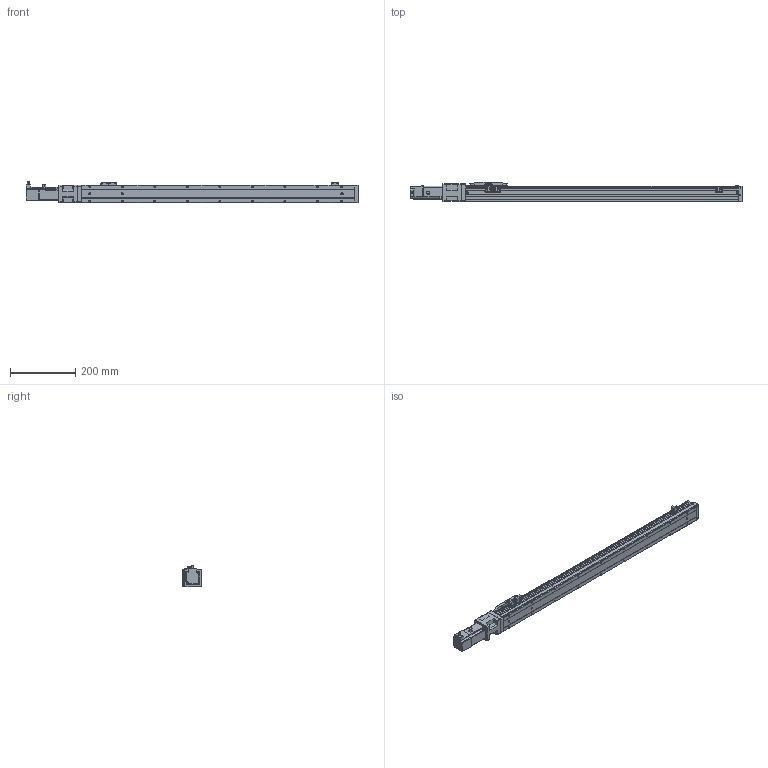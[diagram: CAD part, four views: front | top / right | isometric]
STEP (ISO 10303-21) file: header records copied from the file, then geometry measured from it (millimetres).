
FILE_DESCRIPTION (( 'STEP AP203' ), '1' );
FILE_NAME ('CTH5-L10-S700-BC-C10(¼ò).STEP', '2023-02-04T02:06:49', ( '' ), ( '' ), 'SwSTEP 2.0', 'SolidWorks 2018', '' );
FILE_SCHEMA (( 'CONFIG_CONTROL_DESIGN' ));
Length unit declared in the file: millimetre
Products named in the file (21): 内六角圆柱头螺钉M3-2; CTH5萇儂釱欶; M3; 葩璃 蚾饜极13^CTH8-L10-S50-BM-C40(潠)1; CTH5ヶ耜啣(潠); M3｡｣; CTH5覜茼え; hex nuts, style 1-grades ab gb_GB_FASTENER_NUT_SNAB1 M3-N; 嫖萇羲壽郪磁1; CTH5耜晚蹟隊-1; CTH5-L10-S700-BC-C10(潠); CTH5-BC-03; CTH5綴耜啣; PM-Y45; CTH嫖萇羲壽假蚾啣; CTH5賑怢; CTH5耜晚蹟隊; CTH5萇儂釱; 100W萇儂; CTH5菁釱-L840; T10-p1
Assembly tree (37 placements, depth 3):
  CTH5-L10-S700-BC-C10(潠)
    CTH5綴耜啣
    CTH5賑怢
    CTH5ヶ耜啣(潠)
    CTH5菁釱-L840
    CTH5耜晚蹟隊  x2
    CTH5萇儂釱
      CTH5-BC-03
    CTH5萇儂釱欶
    100W萇儂
      T10-p1
    嫖萇羲壽郪磁1  x2
      CTH嫖萇羲壽假蚾啣
      PM-Y45
      M3｡｣
      内六角圆柱头螺钉M3-2
      hex nuts, style 1-grades ab gb_GB_FASTENER_NUT_SNAB1 M3-N
    CTH5覜茼え
    葩璃 蚾饜极13^CTH8-L10-S50-BM-C40(潠)1
      CTH嫖萇羲壽假蚾啣
      PM-Y45
      内六角圆柱头螺钉M3-2  x2
      M3｡｣  x2
      hex nuts, style 1-grades ab gb_GB_FASTENER_NUT_SNAB1 M3-N  x2
    M3  x2
    CTH5耜晚蹟隊-1  x4
Bounding box: 1021.1 x 60 x 65.7 mm (x, y, z)
Volume: 2129448.8 mm3; surface area: 298002.8 mm2
Topology: 40 solids, 40 shells, 1551 faces, 3880 edges, 2498 vertices
Faces by surface type: plane 848, cylinder 450, cone 191, torus 44, bspline 18
Entity records: 35049 total; most frequent: CARTESIAN_POINT 6436, DIRECTION 5556, ORIENTED_EDGE 5308, EDGE_CURVE 2654, AXIS2_PLACEMENT_3D 1925, LINE 1706, VECTOR 1706, VERTEX_POINT 1704
